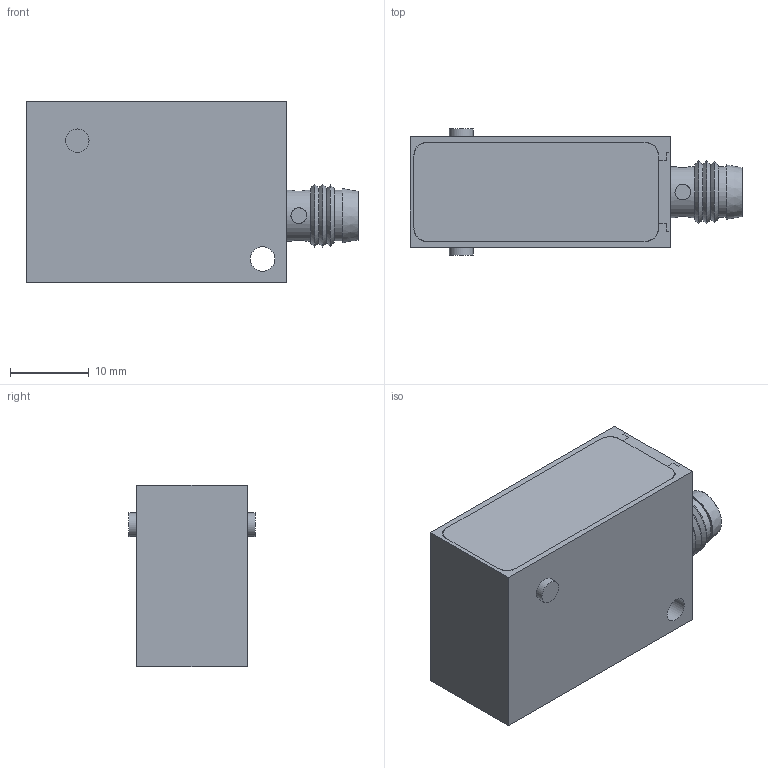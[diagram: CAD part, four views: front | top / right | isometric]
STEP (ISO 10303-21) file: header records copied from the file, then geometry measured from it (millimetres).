
FILE_DESCRIPTION((''),'2;1');
FILE_NAME('Q:\Konstruktion\E-Mail-Zeichnungen\STEP\C-LAS-LT-35_0303_00.stp','2011-07-01T10:18:54',('GuentherB'),(''),'Autodesk Inventor 2011','Autodesk Inventor 2011','');
FILE_SCHEMA(('AUTOMOTIVE_DESIGN { 1 0 10303 214 1 1 1 1 }'));
Length unit declared in the file: millimetre
Products named in the file (1): Bauteil2
Bounding box: 42.1 x 16 x 23 mm (x, y, z)
Volume: 10729.9 mm3; surface area: 3678.9 mm2
Topology: 1 solids, 2 shells, 83 faces, 201 edges, 137 vertices
Faces by surface type: plane 43, cylinder 28, cone 7, sphere 4, torus 1
Full cylindrical faces by diameter (mm): 1 x4, 2 x4, 2.9 x1, 3 x3, 3.1 x2, 5.2 x1, 5.8 x1, 6 x1, 6.4 x1, 6.5 x1, 6.9 x1
Entity records: 2533 total; most frequent: CARTESIAN_POINT 517, DIRECTION 396, ORIENTED_EDGE 324, EDGE_CURVE 162, AXIS2_PLACEMENT_3D 158, EDGE_LOOP 135, VERTEX_POINT 131, FACE_OUTER_BOUND 83
